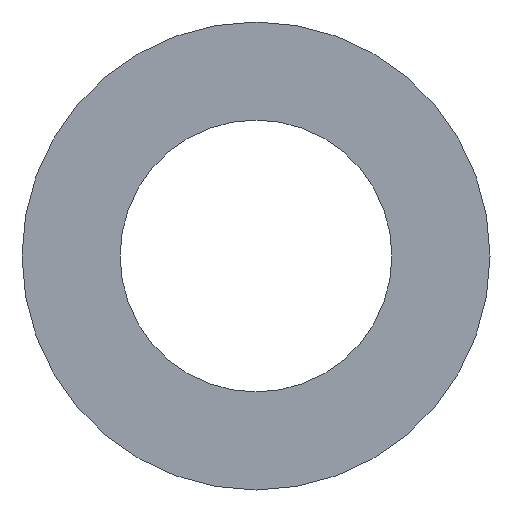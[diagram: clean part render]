
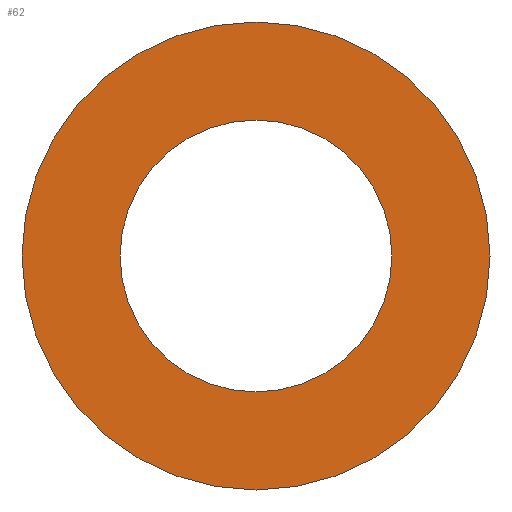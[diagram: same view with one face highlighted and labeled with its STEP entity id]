
A CAD part, front view. The second image highlights one B-rep face of the part: STEP entity #62.
In plain terms, the highlighted planar face has unit normal (0, -1, 0).
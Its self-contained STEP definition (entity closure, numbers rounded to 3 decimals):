
#20=PLANE('',#83);
#26=ORIENTED_EDGE('',*,*,#30,.T.);
#27=ORIENTED_EDGE('',*,*,#32,.F.);
#30=EDGE_CURVE('',#34,#34,#38,.T.);
#32=EDGE_CURVE('',#36,#36,#40,.T.);
#34=VERTEX_POINT('',#106);
#36=VERTEX_POINT('',#111);
#38=CIRCLE('',#78,82.5);
#40=CIRCLE('',#81,142.);
#46=EDGE_LOOP('',(#26));
#47=EDGE_LOOP('',(#27));
#54=FACE_BOUND('',#46,.T.);
#55=FACE_BOUND('',#47,.T.);
#62=ADVANCED_FACE('',(#54,#55),#20,.F.);
#78=AXIS2_PLACEMENT_3D('',#105,#89,#90);
#81=AXIS2_PLACEMENT_3D('',#110,#95,#96);
#83=AXIS2_PLACEMENT_3D('',#114,#99,#100);
#89=DIRECTION('',(0.,1.,0.));
#90=DIRECTION('',(1.,0.,0.));
#95=DIRECTION('',(0.,1.,0.));
#96=DIRECTION('',(1.,0.,0.));
#99=DIRECTION('',(0.,1.,0.));
#100=DIRECTION('',(0.,0.,1.));
#105=CARTESIAN_POINT('',(0.,-1.5,0.));
#106=CARTESIAN_POINT('',(82.5,-1.5,0.));
#110=CARTESIAN_POINT('',(0.,-1.5,0.));
#111=CARTESIAN_POINT('',(142.,-1.5,0.));
#114=CARTESIAN_POINT('',(0.,-1.5,0.));
